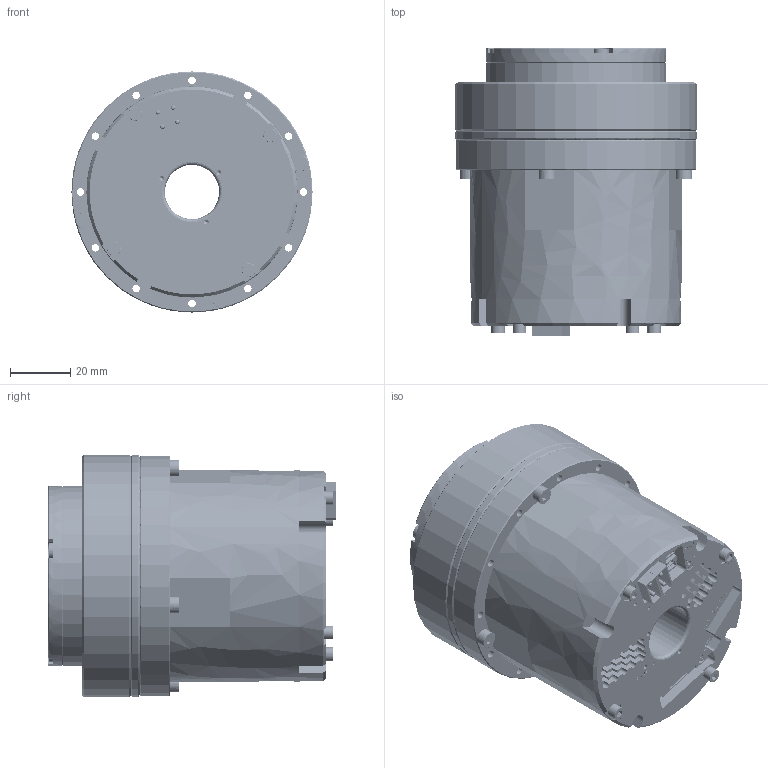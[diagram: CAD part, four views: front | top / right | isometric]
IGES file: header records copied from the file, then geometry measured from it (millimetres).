
Start section: SolidWorks IGES file using analytic representation for surfaces
Global section: file name: C:\Users\Administrator\Desktop\11.7\ﾉﾏｴｫｹﾙﾍeRob80 Iﾐﾍ\eRob80H｡ﾁ｡ﾁI_V3\eRob80H｡ﾁ｡ﾁI_V3.IGS,; native system: SolidWorks 2021; preprocessor: SolidWorks 2021; author: ZERO; date: 221108.143445; units: millimetre
Bounding box: 80 x 95.7 x 80 mm (x, y, z)
Volume: 1474.8 mm3; surface area: 80117.8 mm2
Topology: 18 solids, 37 shells, 2939 faces, 7745 edges, 5017 vertices
Faces by surface type: plane 1596, revolution 1111, bspline 232
